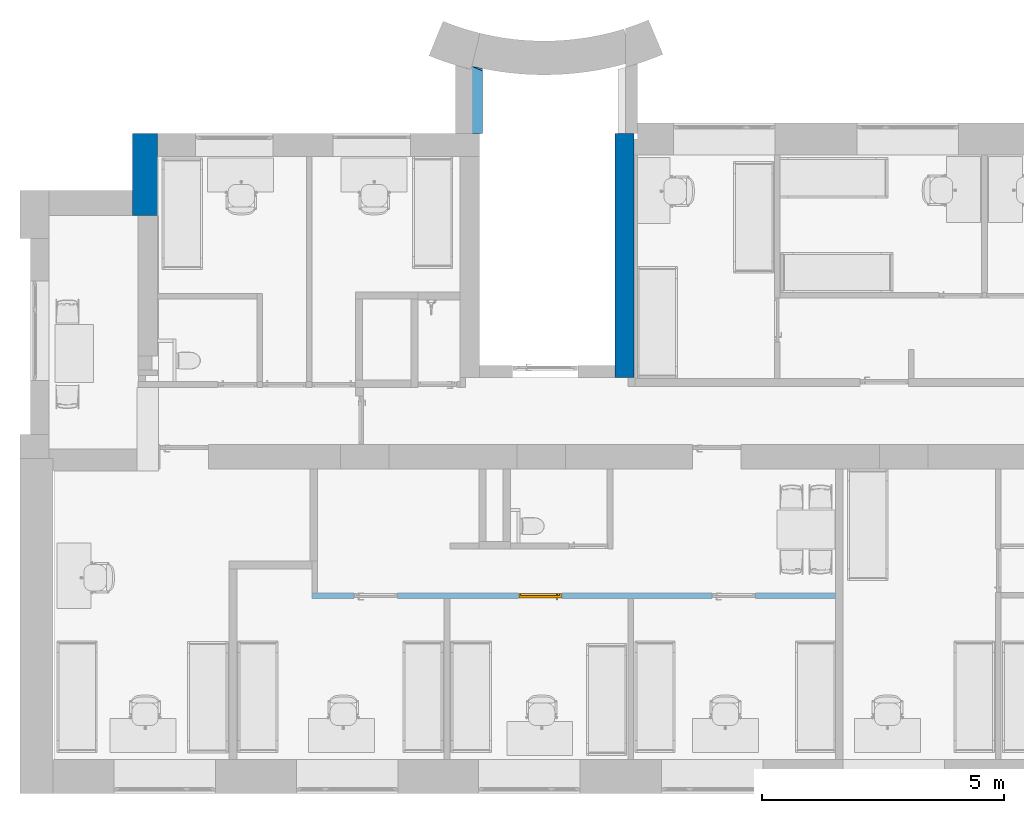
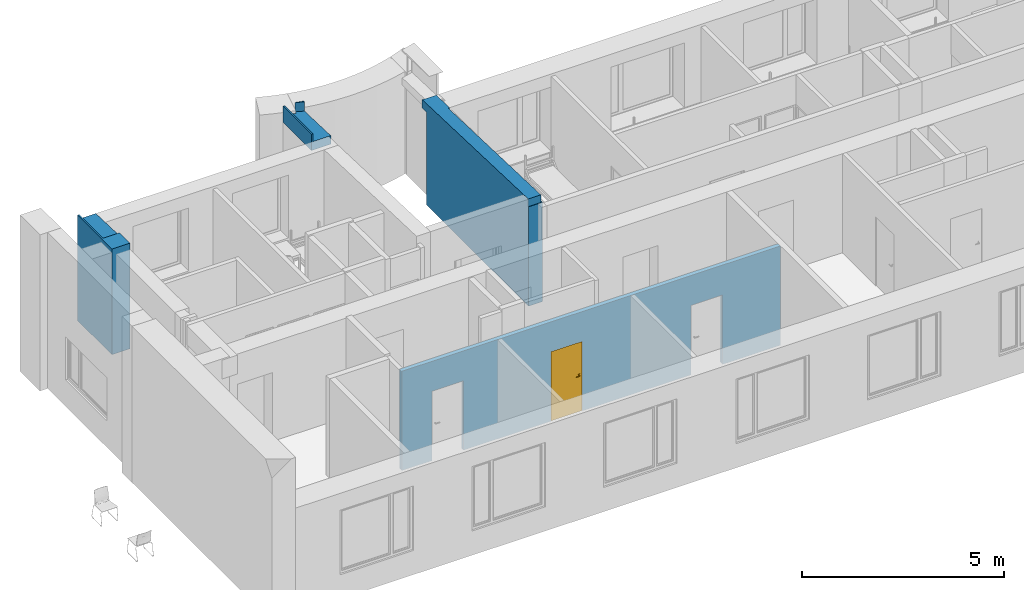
# One storey, part 15 of 46: 3 walls, 1 door, 3 openings, plus 1 element that does not belong to this part.
"""IFC2X3 building model written with IfcOpenShell, lengths in millimetres."""

from ifc_helpers import new_model, entity, si_unit, converted_unit, derived_unit, direction, frame, frame_2d, origin, place, context, subcontext, project, spatial, polyline, rectangle, extrude, clip, bounded_halfspace, faceted_brep, source, transform, mapped, material, material_list, layer, layer_set, layer_usage, type_object, type_shapes, element, fill, save


model = new_model("IFC2X3")

# Units and contexts
model_context = context("Model", 3, precision=0.01, world=origin(), true_north=direction((6.12303176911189e-17, 1.0)))
body_context = subcontext(model_context, "Body", "Model", "MODEL_VIEW")
ifc_project = project(units=[si_unit("LENGTHUNIT", "METRE", prefix="MILLI"), si_unit("AREAUNIT", "SQUARE_METRE"), si_unit("VOLUMEUNIT", "CUBIC_METRE"), converted_unit("PLANEANGLEUNIT", "DEGREE", entity("IfcRatioMeasure", 0.0174532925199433), si_unit("PLANEANGLEUNIT", "RADIAN"), dimensions=[0, 0, 0, 0, 0, 0, 0]), si_unit("MASSUNIT", "GRAM", prefix="KILO"), derived_unit("MASSDENSITYUNIT", [(si_unit("MASSUNIT", "GRAM", prefix="KILO"), 1), (si_unit("LENGTHUNIT", "METRE"), -3)]), si_unit("TIMEUNIT", "SECOND"), si_unit("FREQUENCYUNIT", "HERTZ"), si_unit("THERMODYNAMICTEMPERATUREUNIT", "DEGREE_CELSIUS"), derived_unit("THERMALTRANSMITTANCEUNIT", [(si_unit("MASSUNIT", "GRAM", prefix="KILO"), 1), (si_unit("THERMODYNAMICTEMPERATUREUNIT", "KELVIN"), -1), (si_unit("TIMEUNIT", "SECOND"), -3)]), derived_unit("VOLUMETRICFLOWRATEUNIT", [(si_unit("LENGTHUNIT", "METRE"), 3), (si_unit("TIMEUNIT", "SECOND"), -1)]), si_unit("ELECTRICCURRENTUNIT", "AMPERE"), si_unit("ELECTRICVOLTAGEUNIT", "VOLT"), si_unit("POWERUNIT", "WATT"), si_unit("FORCEUNIT", "NEWTON", prefix="KILO"), si_unit("ILLUMINANCEUNIT", "LUX"), si_unit("LUMINOUSFLUXUNIT", "LUMEN"), si_unit("LUMINOUSINTENSITYUNIT", "CANDELA"), derived_unit("USERDEFINED", [(si_unit("MASSUNIT", "GRAM", prefix="KILO"), -1), (si_unit("LENGTHUNIT", "METRE"), -2), (si_unit("TIMEUNIT", "SECOND"), 3), (si_unit("LUMINOUSFLUXUNIT", "LUMEN"), 1)]), derived_unit("LINEARVELOCITYUNIT", [(si_unit("LENGTHUNIT", "METRE"), 1), (si_unit("TIMEUNIT", "SECOND"), -1)]), si_unit("PRESSUREUNIT", "PASCAL"), derived_unit("USERDEFINED", [(si_unit("LENGTHUNIT", "METRE"), -2), (si_unit("MASSUNIT", "GRAM", prefix="KILO"), 1), (si_unit("TIMEUNIT", "SECOND"), -2)]), derived_unit("LINEARFORCEUNIT", [(si_unit("MASSUNIT", "GRAM", prefix="KILO"), 1), (si_unit("LENGTHUNIT", "METRE"), 1), (si_unit("TIMEUNIT", "SECOND"), -2), (si_unit("LENGTHUNIT", "METRE"), -1)]), derived_unit("PLANARFORCEUNIT", [(si_unit("MASSUNIT", "GRAM", prefix="KILO"), 1), (si_unit("LENGTHUNIT", "METRE"), 1), (si_unit("TIMEUNIT", "SECOND"), -2), (si_unit("LENGTHUNIT", "METRE"), -2)])], contexts=[model_context])

# Site, building, storey
site_placement = place(None, origin())
site = spatial("IfcSite", under=ifc_project, at=site_placement, Name="Default", CompositionType="ELEMENT")
building_placement = place(site_placement, origin())
building = spatial("IfcBuilding", under=site, at=building_placement, Name="SMA ARH", CompositionType="ELEMENT")
storey_placement = place(building_placement, frame((0.0, 0.0, 9910.0)))
storey = spatial("IfcBuildingStorey", under=building, at=storey_placement, Name="4 Korrus", CompositionType="ELEMENT", Elevation=9909.9999999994)

# Walls
ifc_material_1 = material(Name="_ol.olev sein")
ifc_layer_1 = layer(ifc_material_1, 550.0)
ifc_layer_set_1 = layer_set([ifc_layer_1], Name="Basic Wall:Generic - 550mm")
wall_type_1 = type_object("IfcWallType", Name="Basic Wall:Generic - 550mm", PredefinedType="STANDARD", material=ifc_layer_set_1)
wall_1_placement = place(storey_placement, frame((8585.0, 14359.8455573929, 2800.0), z_axis=(0.0, 0.0, 1.0), x_axis=(0.0, -1.0, 0.0)))
element("IfcWall", 1, at=wall_1_placement, inside=storey, type_object=wall_type_1, Name="Basic Wall:Generic - 550mm", ObjectType="Basic Wall:Generic - 550mm", context=body_context, shape_type="Brep", body=[
    faceted_brep([(18.7922626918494, 59.1128676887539, 490.0), (23.2655025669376, 58.0139404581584, 490.0), (70.5576287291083, 165.731912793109, 490.0), (114.148819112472, 275.0, 490.0), (67.8042309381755, 275.0, 490.0), (44.2498735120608, 166.834635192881, 490.0), (0.0, -275.0, 490.0), (1413.64251449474, -275.0, 490.0), (1413.64251449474, -231.757150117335, 490.0), (12.8686766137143, -231.757150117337, 490.0), (6.47303900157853, -253.389230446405, 490.0), (0.0, -275.0, 367.50000000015), (0.0, -275.0, 245.0), (0.0, -275.0, 122.500000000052), (0.0, -275.0, 0.0), (1413.64251449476, -275.0, 0.0), (1413.64251449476, 275.0, 0.0), (67.8042309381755, 275.0, 0.0), (114.148819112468, 275.0, 212.261238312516), (1413.64251449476, 275.0, 257.640558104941), (45.4503829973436, -116.837297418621, 0.0), (86.7709788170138, 42.4127433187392, 0.0), (18.7922626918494, 59.1128676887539, 0.0), (20.7378333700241, 67.0547608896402, 0.0), (22.6732054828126, 74.9998090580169, 0.0), (46.0549979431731, 174.809868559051, 0.0), (1413.64251449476, 75.0, 0.0), (1413.64251449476, 215.0, 257.640558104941), (70.5523480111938, 165.719305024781, 210.738815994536), (23.2655025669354, 58.0139404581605, 209.087522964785), (86.7709788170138, 42.4127433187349, 211.305183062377), (51.3549240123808, -95.0859875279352, 210.068427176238), (12.8686766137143, -231.757150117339, 208.724457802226), (1413.64251449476, -231.757150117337, 257.640558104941), (12.8686766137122, -231.757150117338, 349.362228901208), (18.7922626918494, 59.1128676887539, 290.0)], [[[0, 1, 2, 3, 4, 5]], [[6, 7, 8, 9, 10]], [[7, 6, 11, 12, 13, 14, 15]], [[16, 17, 4, 3, 18, 19]], [[15, 14, 20, 21, 22, 23, 24, 25, 17, 16, 26]], [[27, 19, 18, 28, 29, 30, 31, 32, 33]], [[2, 18, 3]], [[28, 18, 2]], [[1, 29, 28]], [[2, 1, 28]], [[33, 32, 34, 9, 8]], [[27, 33, 8, 7, 15, 26, 16, 19]], [[10, 11, 6]], [[14, 13, 20]], [[13, 12, 11, 34, 32]], [[34, 11, 10]], [[31, 21, 20]], [[32, 31, 20]], [[30, 21, 31]], [[10, 9, 34]], [[20, 13, 32]], [[35, 22, 21, 30, 29, 1, 0]], [[35, 23, 22]], [[35, 0, 5]], [[24, 23, 35]], [[4, 17, 25]], [[25, 35, 5]], [[4, 25, 5]], [[24, 35, 25]]]),
])
ifc_layer_2 = layer(ifc_material_1, 520.0)
ifc_layer_set_2 = layer_set([ifc_layer_2], Name="Basic Wall:Generic - 520mm")
wall_type_2 = type_object("IfcWallType", Name="Basic Wall:Generic - 520mm", PredefinedType="STANDARD", material=ifc_layer_set_2)
wall_2_placement = place(storey_placement, frame((1885.0, 11250.0, 0.0), z_axis=(0.0, 0.0, 1.0), x_axis=(0.0, 1.0, 0.0)))
element("IfcWall", 2, at=wall_2_placement, inside=storey, type_object=wall_type_2, Name="Basic Wall:Generic - 520mm", ObjectType="Basic Wall:Generic - 520mm", context=body_context, shape_type="Brep", body=[
    faceted_brep([(0.0, -260.0, 0.0), (1226.2030428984, -260.0, 0.0), (1696.2030428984, -260.0, 0.0), (1696.20304289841, -260.0, 3057.64055810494), (1226.20304289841, -260.0, 3074.05331976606), (520.0, -260.0, 3098.71447344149), (520.0, -260.0, 3190.0), (0.0, -260.0, 3190.0), (0.0, -260.0, 3001.05000000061), (1696.2030428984, 260.0, 0.0), (520.0, 260.0, 0.0), (0.0, 260.0, 0.0), (0.0, 260.0, 3090.0), (0.0, 260.0, 3190.0), (1696.2030428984, 260.0, 3190.0), (0.0, 140.0, 0.0), (0.0, 240.0, 0.0), (1696.2030428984, 240.0, 0.0), (520.0, 216.75715011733, 3190.0), (1696.2030428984, 216.757150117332, 3190.0), (1696.2030428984, 216.757150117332, 3057.64055810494), (520.0, 216.75715011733, 3098.71447344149)], [[[0, 1, 2, 3, 4, 5, 6, 7, 8]], [[9, 10, 11, 12, 13, 14]], [[2, 1, 0, 15, 16, 11, 10, 9, 17]], [[14, 13, 7, 6, 18, 19]], [[2, 17, 9, 14, 19, 20, 3]], [[7, 13, 12, 11, 16, 15, 0, 8]], [[20, 21, 5, 4, 3]], [[5, 21, 18, 6]], [[21, 20, 19, 18]]]),
])
ifc_layer_3 = layer(ifc_material_1, 400.0)
ifc_layer_set_3 = layer_set([ifc_layer_3], Name="Basic Wall:Generic - 400mm")
wall_type_3 = type_object("IfcWallType", Name="Basic Wall:Generic - 400mm", PredefinedType="STANDARD", material=ifc_layer_set_3)
wall_3_placement = place(storey_placement, frame((11800.0, 7905.0, 0.0), z_axis=(0.0, 0.0, 1.0), x_axis=(0.0, 1.0, 0.0)))
element("IfcWall", 3, at=wall_3_placement, inside=storey, type_object=wall_type_3, Name="Basic Wall:Generic - 400mm", ObjectType="Basic Wall:Generic - 400mm", context=body_context, shape_type="Brep", body=[
    faceted_brep([(0.0, -200.0, 0.0), (4927.50000000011, -200.0, 0.0), (5040.0, -200.0, 0.0), (5040.0, -200.0, 2800.0), (5260.0, -200.0, 2800.0), (5260.0, -200.0, 3050.0), (5040.0, -200.0, 3057.68256928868), (4595.0, -200.0, 3073.2223117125), (4595.0, -200.0, 3001.0500000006), (0.0, -200.0, 3001.0500000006), (5040.0, 200.0, 0.0), (250.0, 200.0, 0.0), (0.0, 200.0, 0.0), (0.0, 200.0, 3001.0500000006), (15.0, 200.0, 3001.0500000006), (15.0, 200.0, 3233.15943598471), (250.0, 200.0, 3224.95305515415), (5260.0, 200.0, 3050.0), (5260.0, 200.0, 2800.0), (5040.0, 200.0, 2800.0), (5040.0, -20.0, 0.0), (15.0, -160.0, 3233.15943598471), (4595.0, -160.0, 3073.22231171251), (4595.0, -160.0, 3001.0500000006), (15.0, -160.0, 3001.0500000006), (5040.0, -20.0, 2800.0)], [[[0, 1, 2, 3, 4, 5, 6, 7, 8, 9]], [[10, 11, 12, 13, 14, 15, 16, 17, 18, 19]], [[2, 1, 0, 12, 11, 10, 20]], [[12, 0, 9, 13]], [[5, 17, 16, 15, 21, 22, 7, 6]], [[23, 24, 14, 13, 9, 8]], [[14, 24, 21, 15]], [[24, 23, 22, 21]], [[23, 8, 7, 22]], [[2, 20, 10, 19, 25, 3]], [[4, 3, 25, 19, 18]], [[4, 18, 17, 5]]]),
])

# Wall, openings, door
ifc_material_2 = material(Name="EST. Ehitusplaat. Kipsplaat")
ifc_layer_4 = layer(ifc_material_2, 12.5)
ifc_layer_5 = layer(ifc_material_2, 12.5)
ifc_material_3 = material(Name="EST. Soojustus. Mineraalvill. Default")
ifc_layer_6 = layer(ifc_material_3, 66.0)
ifc_layer_7 = layer(ifc_material_2, 12.5)
ifc_layer_8 = layer(ifc_material_2, 12.5)
ifc_layer_set_4 = layer_set([ifc_layer_4, ifc_layer_5, ifc_layer_6, ifc_layer_7, ifc_layer_8], Name="Basic Wall:SS-05_Kips, 66mm metallkarkass")
ifc_layer_usage = layer_usage(ifc_layer_set_4, "AXIS2", "NEGATIVE", 58.0)
wall_type_4 = type_object("IfcWallType", Name="Basic Wall:SS-05_Kips, 66mm metallkarkass", PredefinedType="STANDARD", material=ifc_layer_set_4)
wall_4_placement = place(storey_placement, frame((5337.75000000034, 3387.49999999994, 0.0)))
wall_4 = element("IfcWallStandardCase", 4, at=wall_4_placement, inside=storey, type_object=wall_type_4, material=ifc_layer_usage, Name="Basic Wall:SS-05_Kips, 66mm metallkarkass", ObjectType="Basic Wall:SS-05_Kips, 66mm metallkarkass", context=body_context, shape_type="Clipping", body=[
    clip(extrude(rectangle(XDim=10820.2499999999, YDim=116.0, at=frame_2d((5410.12499999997, 5.6843418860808e-14), x_axis=(-1.0, 0.0))), origin(), (0.0, 0.0, 1.0), 3001.0500000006), bounded_halfspace(frame((0.0, -58.0, 3001.0500000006), z_axis=(0.0, 0.0, -1.0), x_axis=(0.0, 1.0, 0.0)), True, frame((0.0, -58.0, 3001.0500000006)), polyline([(0.0, 0.0), (2734.25000000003, 0.0), (2850.25000000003, 0.0), (6534.24999999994, 0.0), (6650.24999999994, 0.0), (10820.2499999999, 0.0), (10820.2499999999, 116.0), (0.0, 116.0), (0.0, 0.0)]))),
])
opening_1_placement = place(wall_4_placement, frame((9166.0, 58.0, 0.0)))
element("IfcOpeningElement", 5, at=opening_1_placement, cuts=wall_4, Name="SMA_D01, 1-poolne:SU-P-05 - 900x2100 TUBA:1", ObjectType="Opening", context=body_context, shape_type="SweptSolid", body=[
    extrude(rectangle(XDim=2099.99999999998, YDim=900.0, at=frame_2d((1049.99999999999, 450.000000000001), x_axis=(1.0, 0.0))), frame((0.0, 0.0, 0.0), z_axis=(0.0, -1.0, 0.0), x_axis=(0.0, 0.0, 1.0)), (0.0, 0.0, 1.0), 116.0),
])
opening_2_placement = place(wall_4_placement, frame((5166.0, 58.0, 0.0)))
opening_2 = element("IfcOpeningElement", 6, at=opening_2_placement, cuts=wall_4, Name="SMA_D01, 1-poolne:SU-P-05 - 900x2100 TUBA:1", ObjectType="Opening", context=body_context, shape_type="SweptSolid", body=[
    extrude(rectangle(XDim=2099.99999999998, YDim=900.0, at=frame_2d((1049.99999999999, 450.0), x_axis=(1.0, 0.0))), frame((0.0, 0.0, 0.0), z_axis=(0.0, -1.0, 0.0), x_axis=(0.0, 0.0, 1.0)), (0.0, 0.0, 1.0), 116.0),
])
opening_3_placement = place(wall_4_placement, frame((1766.0, 58.0, 0.0)))
element("IfcOpeningElement", 7, at=opening_3_placement, cuts=wall_4, Name="SMA_D01, 1-poolne:SU-P-05 - 900x2100 TUBA:1", ObjectType="Opening", context=body_context, shape_type="SweptSolid", body=[
    extrude(rectangle(XDim=2099.99999999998, YDim=900.0, at=frame_2d((1049.99999999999, 450.0), x_axis=(1.0, 0.0))), frame((0.0, 0.0, 0.0), z_axis=(0.0, -1.0, 0.0), x_axis=(0.0, 0.0, 1.0)), (0.0, 0.0, 1.0), 116.0),
])
ifc_material_4 = material(Name="EST. Metall. Alumiinium. Värvitud. RAL7023 (Concrete grey)")
ifc_material_5 = material(Name="<Unnamed>")
ifc_material_6 = material(Name="EST. Klaas. 3x. Default")
ifc_material_list = material_list([ifc_material_5, ifc_material_4, ifc_material_6, ifc_material_5, ifc_material_4, ifc_material_5, ifc_material_4])
door_style = type_object("IfcDoorStyle", Name="SMA_D01, 1-poolne:SU-P-05 - 900x2100 TUBA", ConstructionType="NOTDEFINED", OperationType="NOTDEFINED", ParameterTakesPrecedence=False, Sizeable=False, material=ifc_material_list)
shared_shape = source(origin(), body_context, "Body", "Brep", [
    faceted_brep([(110.0, 11.4999999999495, 1112.5), (110.0, 49.4999999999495, 1112.5), (85.0, 49.4999999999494, 1112.5), (85.0, 6.4999999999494, 1112.5), (205.0, 6.49999999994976, 1112.5), (205.0, 11.4999999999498, 1112.5), (110.0, 11.4999999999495, 1087.5), (205.0, 11.4999999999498, 1087.5), (205.0, 6.49999999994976, 1087.5), (85.0, 6.4999999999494, 1087.5), (85.0, 49.4999999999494, 1087.5), (110.0, 49.4999999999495, 1087.5)], [[[0, 1, 2, 3, 4, 5]], [[6, 7, 8, 9, 10, 11]], [[1, 0, 6, 11]], [[2, 1, 11, 10]], [[3, 2, 10, 9]], [[4, 3, 9, 8]], [[5, 4, 8, 7]], [[0, 5, 7, 6]]]),
    faceted_brep([(122.5, 49.4999999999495, 1137.5), (122.5, 51.4999999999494, 1137.5), (72.5000000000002, 51.4999999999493, 1137.5), (72.5000000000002, 49.4999999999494, 1137.5), (122.5, 49.4999999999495, 1017.5), (72.5000000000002, 49.4999999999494, 1017.5), (72.5000000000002, 51.4999999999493, 1017.5), (122.5, 51.4999999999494, 1017.5)], [[[0, 1, 2, 3]], [[4, 5, 6, 7]], [[1, 0, 4, 7]], [[2, 1, 7, 6]], [[3, 2, 6, 5]], [[0, 3, 5, 4]]]),
    faceted_brep([(110.0, 141.49999999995, 1112.5), (205.0, 141.49999999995, 1112.5), (205.0, 146.49999999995, 1112.5), (85.0, 146.49999999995, 1112.5), (85.0, 103.49999999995, 1112.5), (110.0, 103.49999999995, 1112.5), (110.0, 141.49999999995, 1087.5), (110.0, 103.49999999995, 1087.5), (85.0, 103.49999999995, 1087.5), (85.0, 146.49999999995, 1087.5), (205.0, 146.49999999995, 1087.5), (205.0, 141.49999999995, 1087.5)], [[[0, 1, 2, 3, 4, 5]], [[6, 7, 8, 9, 10, 11]], [[5, 7, 6, 0]], [[4, 8, 7, 5]], [[3, 9, 8, 4]], [[2, 10, 9, 3]], [[1, 11, 10, 2]], [[0, 6, 11, 1]]]),
    faceted_brep([(122.5, 103.49999999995, 1137.5), (72.5000000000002, 103.49999999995, 1137.5), (72.5000000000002, 101.49999999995, 1137.5), (122.5, 101.49999999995, 1137.5), (122.5, 103.49999999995, 1017.5), (122.5, 101.49999999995, 1017.5), (72.5000000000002, 101.49999999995, 1017.5), (72.5000000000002, 103.49999999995, 1017.5)], [[[0, 1, 2, 3]], [[4, 5, 6, 7]], [[3, 5, 4, 0]], [[2, 6, 5, 3]], [[1, 7, 6, 2]], [[0, 4, 7, 1]]]),
    faceted_brep([(850.0, 11.4999999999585, 30.0), (850.0, 11.4999999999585, 0.0), (850.0, 51.4999999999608, 0.0), (850.0, 51.4999999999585, 20.0), (850.0, 51.4999999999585, 30.0), (50.0, 11.4999999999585, 30.0), (50.0, 51.4999999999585, 30.0), (50.0, 51.4999999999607, 20.0), (50.0, 51.4999999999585, 0.0), (50.0, 11.4999999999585, 0.0), (35.0, 51.4999999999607, 0.0), (35.0, 101.499999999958, 0.0), (865.0, 101.499999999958, 0.0), (865.0, 51.4999999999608, 0.0), (865.0, 101.499999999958, 20.0), (865.0, 51.4999999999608, 20.0), (35.0, 101.499999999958, 20.0), (35.0, 51.4999999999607, 20.0)], [[[0, 1, 2, 3, 4]], [[5, 6, 7, 8, 9]], [[1, 0, 5, 9]], [[2, 1, 9, 8, 10, 11, 12, 13]], [[6, 4, 3, 7]], [[0, 4, 6, 5]], [[14, 15, 13, 12]], [[16, 11, 10, 17]], [[15, 14, 16, 17, 7, 3]], [[13, 15, 3, 2]], [[14, 12, 11, 16]], [[17, 10, 8, 7]]]),
    faceted_brep([(890.0, 11.4999999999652, 0.0), (850.0, 11.4999999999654, 0.0), (850.0, 51.4999999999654, 0.0), (865.0, 51.4999999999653, 0.0), (865.0, 101.499999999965, 0.0), (890.0, 101.499999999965, 0.0), (890.0, 11.4999999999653, 2090.0), (10.0, 11.4999999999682, 2090.0), (10.0, 11.4999999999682, 0.0), (50.0, 11.499999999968, 0.0), (50.0, 11.499999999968, 2050.0), (850.0, 11.4999999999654, 2050.0), (850.0, 51.4999999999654, 2050.0), (50.0, 51.499999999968, 2050.0), (50.0, 51.499999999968, 0.0), (35.0, 51.499999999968, 0.0), (35.0, 51.499999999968, 2065.0), (865.0, 51.4999999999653, 2065.0), (865.0, 101.499999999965, 2065.0), (35.0, 101.499999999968, 2065.0), (35.0, 101.499999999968, 0.0), (10.0, 101.499999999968, 0.0), (10.0, 101.499999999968, 2090.0), (890.0, 101.499999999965, 2090.0)], [[[0, 1, 2, 3, 4, 5]], [[1, 0, 6, 7, 8, 9, 10, 11]], [[2, 1, 11, 12]], [[3, 2, 12, 13, 14, 15, 16, 17]], [[4, 3, 17, 18]], [[5, 4, 18, 19, 20, 21, 22, 23]], [[0, 5, 23, 6]], [[8, 7, 22, 21]], [[9, 8, 21, 20, 15, 14]], [[10, 9, 14, 13]], [[16, 15, 20, 19]], [[11, 10, 13, 12]], [[17, 16, 19, 18]], [[7, 6, 23, 22]]]),
    faceted_brep([(35.0, 51.4999999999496, 2065.0), (35.0, 51.4999999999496, 20.0), (865.0, 51.4999999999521, 20.0), (865.0, 51.4999999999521, 2065.0), (35.0, 101.49999999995, 2065.0), (865.0, 101.499999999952, 2065.0), (865.0, 101.499999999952, 20.0), (35.0, 101.49999999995, 20.0)], [[[0, 1, 2, 3]], [[4, 5, 6, 7]], [[1, 0, 4, 7]], [[2, 1, 7, 6]], [[3, 2, 6, 5]], [[0, 3, 5, 4]]]),
])
type_shapes(door_style, [shared_shape])
door_placement = place(opening_2_placement, frame((0.0, 0.0, 0.0), z_axis=(0.0, 0.0, 1.0), x_axis=(-1.0, 0.0, 0.0)))
door = element("IfcDoor", 8, at=door_placement, inside=storey, type_object=door_style, material=ifc_material_4, Name="SMA_D01, 1-poolne:SU-P-05 - 900x2100 TUBA", ObjectType="SMA_D01, 1-poolne:SU-P-05 - 900x2100 TUBA", OverallHeight=2099.99999999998, OverallWidth=900.0, context=body_context, shape_type="MappedRepresentation", body=[
    mapped(shared_shape, transform((0.0, 0.0, 0.0), scale=1.0)),
])
fill(opening_2, door)

save(model, "model.ifc")
